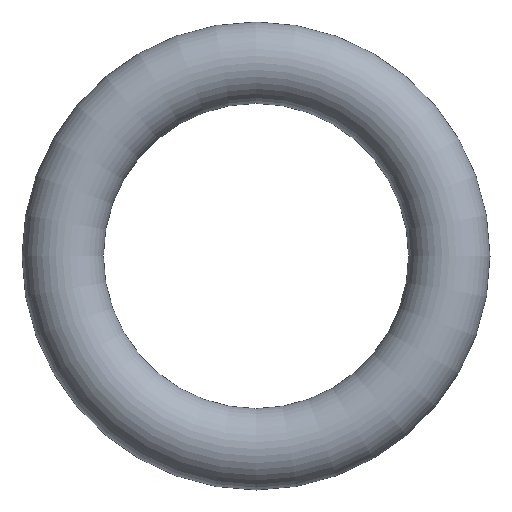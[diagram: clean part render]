
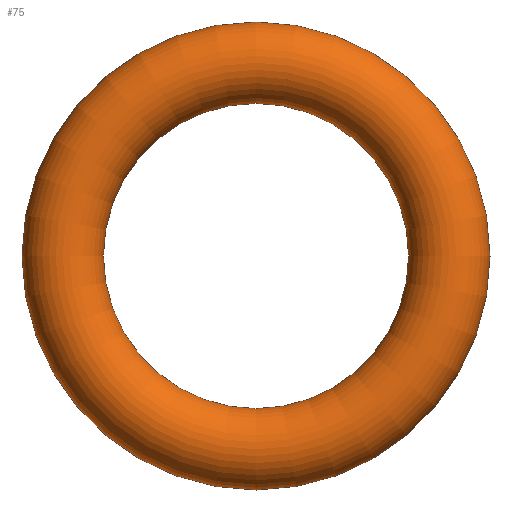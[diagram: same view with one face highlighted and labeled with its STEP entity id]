
A CAD part, front view. The second image highlights one B-rep face of the part: STEP entity #75.
In plain terms, the highlighted toroidal (fillet/blend) face has major radius 4.75 mm and minor radius 1 mm.
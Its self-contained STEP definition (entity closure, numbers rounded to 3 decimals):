
#75 = ADVANCED_FACE( '', ( #77 ), #78, .T. );
#77 = FACE_BOUND( '', #79, .T. );
#78 = TOROIDAL_SURFACE( '', #80, 4.75, 1. );
#79 = VERTEX_LOOP( '', #81 );
#80 = AXIS2_PLACEMENT_3D( '', #82, #83, #84 );
#81 = VERTEX_POINT( '', #85 );
#82 = CARTESIAN_POINT( '', ( 0., 0., 0. ) );
#83 = DIRECTION( '', ( 0., -1., 0. ) );
#84 = DIRECTION( '', ( 0., 0., -1. ) );
#85 = CARTESIAN_POINT( '', ( 0., 0., -5.75 ) );
